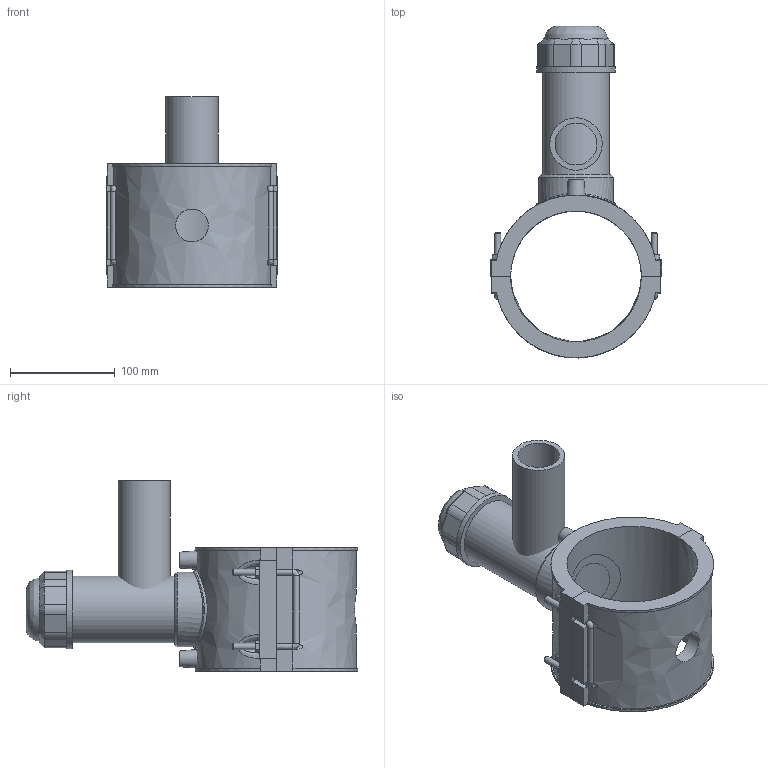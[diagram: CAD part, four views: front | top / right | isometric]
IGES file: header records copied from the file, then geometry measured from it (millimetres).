
Global section: file name: 4963P4125050; native system: Autodesk Inventor 2019; preprocessor: unknown; author: KIM; date: 20220317.112852; units: millimetre
Bounding box: 164 x 317.24 x 182 mm (x, y, z)
Volume: 1176683.6 mm3; surface area: 242930.4 mm2
Topology: 3 solids, 5 shells, 201 faces, 517 edges, 333 vertices
Faces by surface type: bspline 201
